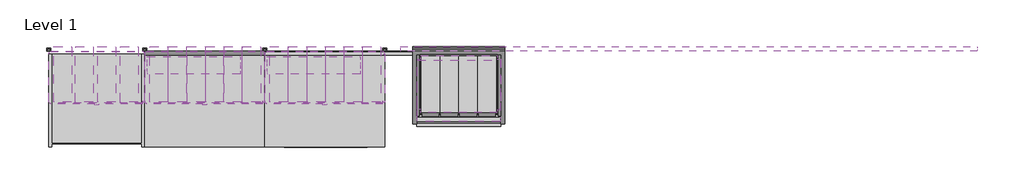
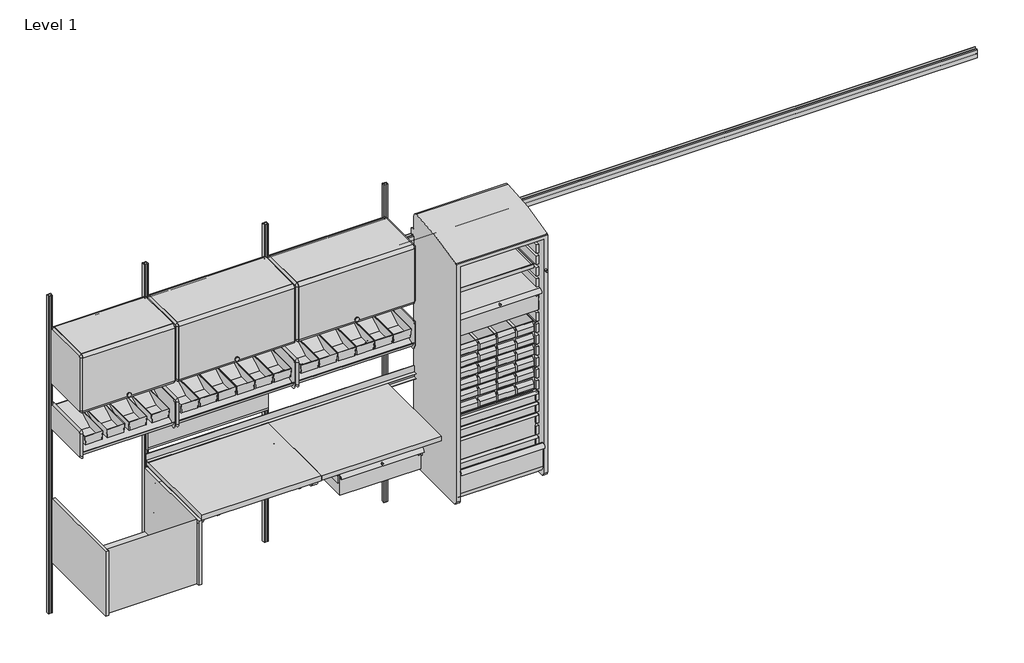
# One storey, incomplete: 47 furniture elements, 2 light fixtures.
"""IFC4 building model written with IfcOpenShell, lengths in millimetres."""

from ifc_helpers import new_model, si_unit, origin, place, context, project, spatial, transform, mapped, element, save
from components import furniture_03e73c74, furniture_d92eedc3, furniture_e3423f84, furniture_2f78b053, furniture_4518f5ca, furniture_6a9bea8c, furniture_c494f6ee, furniture_6299e03b, furniture_37b7cd53, furniture_0eaea0f9, furniture_ac9ddba1, furniture_c85c507a, furniture_f997a199, furniture_bdfcc150, furniture_236c058c, furniture_fc90cfd9, furniture_cfa16b0f, furniture_0d5b5ade, furniture_fea97cc0, furniture_e7193f1e, furniture_ea425779, a_3_cf56a04d, a_3_ebddeea6, b_6_024dd25a, b_6_31b83598, standard_144w_a9847ba4, light_fixture_68823ae9

model = new_model("IFC4")

# Units and contexts
model_context = context("Model", 3, world=origin())
ifc_project = project(units=[si_unit("LENGTHUNIT", "METRE", prefix="MILLI")], contexts=[model_context])

# Site, building, storey
site = spatial("IfcSite", under=ifc_project)
building = spatial("IfcBuilding", under=site)
storey = spatial("IfcBuildingStorey", under=building, Name="Level 1", Elevation=0.0)

# Furniture
placement = place(None, origin())
furniture_shape = furniture_03e73c74(model_context)
element("IfcFurniture", 1, ObjectType="HermanMiller_ActionOffice_A3220_B-StyleStorageDisplay : Display 13\"D x 24\"W", at=placement, inside=storey, context=model_context, shape_type="MappedRepresentation", body=[
    mapped(furniture_shape, transform((428.7420045, -200.025, 0.0), x_axis=(1.0, 0.0, 0.0), y_axis=(0.0, 1.0, 0.0), z_axis=(0.0, 0.0, 1.0))),
])
furniture_2_shape = furniture_d92eedc3(model_context)
element("IfcFurniture", 2, ObjectType="HermanMiller_CoStruc_C2910_WorkSurfaceBacksplash : 3\"H x 72\"W", at=placement, inside=storey, context=model_context, shape_type="MappedRepresentation", body=[
    mapped(furniture_2_shape, transform((1524.0, -19.05, 0.0), x_axis=(1.0, 0.0, 0.0), y_axis=(0.0, 1.0, 0.0), z_axis=(0.0, 0.0, 1.0))),
])
furniture_3_shape = furniture_e3423f84(model_context)
element("IfcFurniture", 3, ObjectType="HermanMiller_ActionOffice_A3220_B-StyleStorageDisplay : Display 13\"D x 30\"W", at=placement, inside=storey, context=model_context, shape_type="MappedRepresentation", body=[
    mapped(furniture_3_shape, transform((1876.5420045, -200.025, 0.0), x_axis=(1.0, 0.0, 0.0), y_axis=(0.0, 1.0, 0.0), z_axis=(0.0, 0.0, 1.0))),
])
element("IfcFurniture", 4, ObjectType="HermanMiller_ActionOffice_A3220_B-StyleStorageDisplay : Display 13\"D x 30\"W", at=placement, inside=storey, context=model_context, shape_type="MappedRepresentation", body=[
    mapped(furniture_3_shape, transform((1114.5420045, -200.025, 0.0), x_axis=(1.0, 0.0, 0.0), y_axis=(0.0, 1.0, 0.0), z_axis=(0.0, 0.0, 1.0))),
])
furniture_4_shape = furniture_2f78b053(model_context)
element("IfcFurniture", 5, ObjectType="HermanMiller_CoStruc_CO371_LockedDrawerWithLockableLid : B - 6\"H x 15\"D x 20\"W Lid Wlock", at=placement, inside=storey, context=model_context, shape_type="MappedRepresentation", body=[
    mapped(furniture_4_shape, transform((1764.3459801, -438.1881, 0.0), x_axis=(1.0, 0.0, 0.0), y_axis=(0.0, 1.0, 0.0), z_axis=(0.0, 0.0, 1.0))),
])
furniture_5_shape = furniture_4518f5ca(model_context)
element("IfcFurniture", 6, ObjectType="HermanMiller_CoStruc_CO371_LockedDrawerWithLockableLid : B - 6\"H x 15\"D x 20\"W Lid Wlock", at=placement, inside=storey, context=model_context, shape_type="MappedRepresentation", body=[
    mapped(furniture_5_shape, transform((2608.4667201, -272.33372, 0.0), x_axis=(1.0, 0.0, 0.0), y_axis=(0.0, 1.0, 0.0), z_axis=(0.0, 0.0, 1.0))),
])
furniture_6_shape = furniture_6a9bea8c(model_context)
element("IfcFurniture", 7, ObjectType="HermanMiller_CoStruc_CO203_CTrayShelf : 14\"D x 20\"W", at=placement, inside=storey, context=model_context, shape_type="MappedRepresentation", body=[
    mapped(furniture_6_shape, transform((2603.92672, -231.02062, 0.0), x_axis=(-1.0, 0.0, 0.0), y_axis=(0.0, -1.0, 0.0), z_axis=(0.0, 0.0, 1.0))),
])
furniture_7_shape = furniture_c494f6ee(model_context)
element("IfcFurniture", 8, ObjectType="HermanMiller_CoStruc_CO565_Cassette Assembly : 6H x 15D x 20W", at=placement, inside=storey, context=model_context, shape_type="MappedRepresentation", body=[
    mapped(furniture_7_shape, transform((2608.68922, -238.95812, 0.0), x_axis=(1.0, 0.0, 0.0), y_axis=(0.0, 1.0, 0.0), z_axis=(0.0, 0.0, 1.0))),
])
furniture_8_shape = furniture_6299e03b(model_context)
element("IfcFurniture", 9, ObjectType="HermanMiller_CoStruc_CO565_Cassette Assembly : 6H x 15D x 20W", at=placement, inside=storey, context=model_context, shape_type="MappedRepresentation", body=[
    mapped(furniture_8_shape, transform((2608.68922, -238.95812, 0.0), x_axis=(1.0, 0.0, 0.0), y_axis=(0.0, 1.0, 0.0), z_axis=(0.0, 0.0, 1.0))),
])
furniture_9_shape = furniture_37b7cd53(model_context)
element("IfcFurniture", 10, ObjectType="HermanMiller_CoStruc_CO565_Cassette Assembly : 6H x 15D x 20W", at=placement, inside=storey, context=model_context, shape_type="MappedRepresentation", body=[
    mapped(furniture_9_shape, transform((2608.68922, -238.95812, 0.0), x_axis=(1.0, 0.0, 0.0), y_axis=(0.0, 1.0, 0.0), z_axis=(0.0, 0.0, 1.0))),
])
furniture_10_shape = furniture_0eaea0f9(model_context)
element("IfcFurniture", 11, ObjectType="HermanMiller_CoStruc_CO203_CTrayShelf : 14\"D x 20\"W", at=placement, inside=storey, context=model_context, shape_type="MappedRepresentation", body=[
    mapped(furniture_10_shape, transform((2603.92672, -231.02062, 0.0), x_axis=(-1.0, 0.0, 0.0), y_axis=(0.0, -1.0, 0.0), z_axis=(0.0, 0.0, 1.0))),
])
furniture_11_shape = furniture_ac9ddba1(model_context)
element("IfcFurniture", 12, ObjectType="HermanMiller_CoStruc_CO561_LockerWithTambourDoor : 66\"H x 20\"D x 22\"W Wlock", at=placement, inside=storey, context=model_context, shape_type="MappedRepresentation", body=[
    mapped(furniture_11_shape, transform((2602.2808, -236.5375, 0.0), x_axis=(1.0, 0.0, 0.0), y_axis=(0.0, 1.0, 0.0), z_axis=(0.0, 0.0, 1.0))),
])
furniture_12_shape = furniture_c85c507a(model_context)
element("IfcFurniture", 13, ObjectType="HermanMiller_CoStruc_CO396_LockableDrawerBearer : 3\"H x 15\"D x 21\"W", at=placement, inside=storey, context=model_context, shape_type="MappedRepresentation", body=[
    mapped(furniture_12_shape, transform((1823.8925877, -349.2182425, 0.0), x_axis=(1.0, 0.0, 0.0), y_axis=(0.0, 1.0, 0.0), z_axis=(0.0, 0.0, 1.0))),
])
furniture_13_shape = furniture_f997a199(model_context)
element("IfcFurniture", 14, ObjectType="HermanMiller_CoStruc_C2140W_WorkSurfaceSupport_ComponentAdaptor : 14\"H x 24\"D x 30\"W", at=placement, inside=storey, context=model_context, shape_type="MappedRepresentation", body=[
    mapped(furniture_13_shape, transform((1752.6, -196.85, 0.0), x_axis=(1.0, 0.0, 0.0), y_axis=(0.0, 1.0, 0.0), z_axis=(0.0, 0.0, 1.0))),
])
furniture_14_shape = furniture_bdfcc150(model_context)
element("IfcFurniture", 15, ObjectType="HermanMiller_CoStruc_C2140H_WorkSurfaceSupport_Heavy Duty : 11\"H x 24\"D x 30\"W", at=placement, inside=storey, context=model_context, shape_type="MappedRepresentation", body=[
    mapped(furniture_14_shape, transform((990.6, -196.85, 0.0), x_axis=(1.0, 0.0, 0.0), y_axis=(0.0, 1.0, 0.0), z_axis=(0.0, 0.0, 1.0))),
])
furniture_15_shape = furniture_236c058c(model_context)
element("IfcFurniture", 16, ObjectType="HermanMiller_CoStruc_C2141_Heavy-DutyWorkSurface : 24\"D x 30\"W Lam", at=placement, inside=storey, context=model_context, shape_type="MappedRepresentation", body=[
    mapped(furniture_15_shape, transform((1676.4, -196.85, 0.0), x_axis=(1.0, 0.0, 0.0), y_axis=(0.0, 1.0, 0.0), z_axis=(0.0, 0.0, 1.0))),
])
element("IfcFurniture", 17, ObjectType="HermanMiller_CoStruc_C2141_Heavy-DutyWorkSurface : 24\"D x 30\"W Lam", at=placement, inside=storey, context=model_context, shape_type="MappedRepresentation", body=[
    mapped(furniture_15_shape, transform((914.4, -196.85, 0.0), x_axis=(1.0, 0.0, 0.0), y_axis=(0.0, 1.0, 0.0), z_axis=(0.0, 0.0, 1.0))),
])
furniture_16_shape = furniture_fc90cfd9(model_context)
element("IfcFurniture", 18, ObjectType="HermanMiller_CoStruc_C2512_SinkModule : 18\"H x 24\"D x 24\"W", at=placement, inside=storey, context=model_context, shape_type="MappedRepresentation", body=[
    mapped(furniture_16_shape, transform((304.8, -206.375, 0.0), x_axis=(1.0, 0.0, 0.0), y_axis=(0.0, 1.0, 0.0), z_axis=(0.0, 0.0, 1.0))),
])
furniture_17_shape = furniture_cfa16b0f(model_context)
element("IfcFurniture", 19, ObjectType="HermanMiller_ActionOffice_A3410_B-StyleTackboard : 12\"H x 30\"W", at=placement, inside=storey, context=model_context, shape_type="MappedRepresentation", body=[
    mapped(furniture_17_shape, transform((990.6, -31.75, 0.0), x_axis=(1.0, 0.0, 0.0), y_axis=(0.0, 1.0, 0.0), z_axis=(0.0, 0.0, 1.0))),
])
furniture_18_shape = furniture_0d5b5ade(model_context)
element("IfcFurniture", 20, ObjectType="HermanMiller_ActionOffice_A3352_B-StyleFlipperDoorUnit : 15 1/2\"H x 13\"D x 30\"W", at=placement, inside=storey, context=model_context, shape_type="MappedRepresentation", body=[
    mapped(furniture_18_shape, transform((1752.6, -200.025, 0.0), x_axis=(1.0, 0.0, 0.0), y_axis=(0.0, 1.0, 0.0), z_axis=(0.0, 0.0, 1.0))),
])
element("IfcFurniture", 21, ObjectType="HermanMiller_ActionOffice_A3352_B-StyleFlipperDoorUnit : 15 1/2\"H x 13\"D x 30\"W", at=placement, inside=storey, context=model_context, shape_type="MappedRepresentation", body=[
    mapped(furniture_18_shape, transform((990.6, -200.025, 0.0), x_axis=(1.0, 0.0, 0.0), y_axis=(0.0, 1.0, 0.0), z_axis=(0.0, 0.0, 1.0))),
])
furniture_19_shape = furniture_fea97cc0(model_context)
element("IfcFurniture", 22, ObjectType="HermanMiller_ActionOffice_A3352_B-StyleFlipperDoorUnit : 15 1/2\"H x 13\"D x 24\"W", at=placement, inside=storey, context=model_context, shape_type="MappedRepresentation", body=[
    mapped(furniture_19_shape, transform((304.8, -200.025, 0.0), x_axis=(1.0, 0.0, 0.0), y_axis=(0.0, 1.0, 0.0), z_axis=(0.0, 0.0, 1.0))),
])
furniture_20_shape = furniture_e7193f1e(model_context)
element("IfcFurniture", 23, ObjectType="HermanMiller_CoStruc_CO231_Subcontainer : 2 1/4\"H x 13 7/8\"D x 4 1/2\"W", at=placement, inside=storey, context=model_context, shape_type="MappedRepresentation", body=[
    mapped(furniture_20_shape, transform((1169.91638, -169.1513, 0.0), x_axis=(-1.0, 0.0, 0.0), y_axis=(0.0, -1.0, 0.0), z_axis=(0.0, 0.0, 1.0))),
])
element("IfcFurniture", 24, ObjectType="HermanMiller_CoStruc_CO231_Subcontainer : 2 1/4\"H x 13 7/8\"D x 4 1/2\"W", at=placement, inside=storey, context=model_context, shape_type="MappedRepresentation", body=[
    mapped(furniture_20_shape, transform((1287.55902, -169.1513, 0.0), x_axis=(-1.0, 0.0, 0.0), y_axis=(0.0, -1.0, 0.0), z_axis=(0.0, 0.0, 1.0))),
])
element("IfcFurniture", 25, ObjectType="HermanMiller_CoStruc_CO231_Subcontainer : 2 1/4\"H x 13 7/8\"D x 4 1/2\"W", at=placement, inside=storey, context=model_context, shape_type="MappedRepresentation", body=[
    mapped(furniture_20_shape, transform((699.57696, -169.1513, 0.0), x_axis=(-1.0, 0.0, 0.0), y_axis=(0.0, -1.0, 0.0), z_axis=(0.0, 0.0, 1.0))),
])
element("IfcFurniture", 26, ObjectType="HermanMiller_CoStruc_CO231_Subcontainer : 2 1/4\"H x 13 7/8\"D x 4 1/2\"W", at=placement, inside=storey, context=model_context, shape_type="MappedRepresentation", body=[
    mapped(furniture_20_shape, transform((817.38978, -169.1513, 0.0), x_axis=(-1.0, 0.0, 0.0), y_axis=(0.0, -1.0, 0.0), z_axis=(0.0, 0.0, 1.0))),
])
element("IfcFurniture", 27, ObjectType="HermanMiller_CoStruc_CO231_Subcontainer : 2 1/4\"H x 13 7/8\"D x 4 1/2\"W", at=placement, inside=storey, context=model_context, shape_type="MappedRepresentation", body=[
    mapped(furniture_20_shape, transform((936.37608, -169.1513, 0.0), x_axis=(-1.0, 0.0, 0.0), y_axis=(0.0, -1.0, 0.0), z_axis=(0.0, 0.0, 1.0))),
])
element("IfcFurniture", 28, ObjectType="HermanMiller_CoStruc_CO231_Subcontainer : 2 1/4\"H x 13 7/8\"D x 4 1/2\"W", at=placement, inside=storey, context=model_context, shape_type="MappedRepresentation", body=[
    mapped(furniture_20_shape, transform((1054.01872, -169.1513, 0.0), x_axis=(-1.0, 0.0, 0.0), y_axis=(0.0, -1.0, 0.0), z_axis=(0.0, 0.0, 1.0))),
])
element("IfcFurniture", 29, ObjectType="HermanMiller_CoStruc_CO231_Subcontainer : 2 1/4\"H x 13 7/8\"D x 4 1/2\"W", at=placement, inside=storey, context=model_context, shape_type="MappedRepresentation", body=[
    mapped(furniture_20_shape, transform((1931.91638, -169.1513, 0.0), x_axis=(-1.0, 0.0, 0.0), y_axis=(0.0, -1.0, 0.0), z_axis=(0.0, 0.0, 1.0))),
])
element("IfcFurniture", 30, ObjectType="HermanMiller_CoStruc_CO231_Subcontainer : 2 1/4\"H x 13 7/8\"D x 4 1/2\"W", at=placement, inside=storey, context=model_context, shape_type="MappedRepresentation", body=[
    mapped(furniture_20_shape, transform((2049.55902, -169.1513, 0.0), x_axis=(-1.0, 0.0, 0.0), y_axis=(0.0, -1.0, 0.0), z_axis=(0.0, 0.0, 1.0))),
])
element("IfcFurniture", 31, ObjectType="HermanMiller_CoStruc_CO231_Subcontainer : 2 1/4\"H x 13 7/8\"D x 4 1/2\"W", at=placement, inside=storey, context=model_context, shape_type="MappedRepresentation", body=[
    mapped(furniture_20_shape, transform((89.97696, -169.1513, 0.0), x_axis=(-1.0, 0.0, 0.0), y_axis=(0.0, -1.0, 0.0), z_axis=(0.0, 0.0, 1.0))),
])
element("IfcFurniture", 32, ObjectType="HermanMiller_CoStruc_CO231_Subcontainer : 2 1/4\"H x 13 7/8\"D x 4 1/2\"W", at=placement, inside=storey, context=model_context, shape_type="MappedRepresentation", body=[
    mapped(furniture_20_shape, transform((227.965, -169.1513, 0.0), x_axis=(-1.0, 0.0, 0.0), y_axis=(0.0, -1.0, 0.0), z_axis=(0.0, 0.0, 1.0))),
])
element("IfcFurniture", 33, ObjectType="HermanMiller_CoStruc_CO231_Subcontainer : 2 1/4\"H x 13 7/8\"D x 4 1/2\"W", at=placement, inside=storey, context=model_context, shape_type="MappedRepresentation", body=[
    mapped(furniture_20_shape, transform((369.02898, -169.1513, 0.0), x_axis=(-1.0, 0.0, 0.0), y_axis=(0.0, -1.0, 0.0), z_axis=(0.0, 0.0, 1.0))),
])
element("IfcFurniture", 34, ObjectType="HermanMiller_CoStruc_CO231_Subcontainer : 2 1/4\"H x 13 7/8\"D x 4 1/2\"W", at=placement, inside=storey, context=model_context, shape_type="MappedRepresentation", body=[
    mapped(furniture_20_shape, transform((512.22402, -169.1513, 0.0), x_axis=(-1.0, 0.0, 0.0), y_axis=(0.0, -1.0, 0.0), z_axis=(0.0, 0.0, 1.0))),
])
element("IfcFurniture", 35, ObjectType="HermanMiller_CoStruc_CO231_Subcontainer : 2 1/4\"H x 13 7/8\"D x 4 1/2\"W", at=placement, inside=storey, context=model_context, shape_type="MappedRepresentation", body=[
    mapped(furniture_20_shape, transform((1461.57696, -169.1513, 0.0), x_axis=(-1.0, 0.0, 0.0), y_axis=(0.0, -1.0, 0.0), z_axis=(0.0, 0.0, 1.0))),
])
element("IfcFurniture", 36, ObjectType="HermanMiller_CoStruc_CO231_Subcontainer : 2 1/4\"H x 13 7/8\"D x 4 1/2\"W", at=placement, inside=storey, context=model_context, shape_type="MappedRepresentation", body=[
    mapped(furniture_20_shape, transform((1579.38978, -169.1513, 0.0), x_axis=(-1.0, 0.0, 0.0), y_axis=(0.0, -1.0, 0.0), z_axis=(0.0, 0.0, 1.0))),
])
element("IfcFurniture", 37, ObjectType="HermanMiller_CoStruc_CO231_Subcontainer : 2 1/4\"H x 13 7/8\"D x 4 1/2\"W", at=placement, inside=storey, context=model_context, shape_type="MappedRepresentation", body=[
    mapped(furniture_20_shape, transform((1698.37608, -169.1513, 0.0), x_axis=(-1.0, 0.0, 0.0), y_axis=(0.0, -1.0, 0.0), z_axis=(0.0, 0.0, 1.0))),
])
element("IfcFurniture", 38, ObjectType="HermanMiller_CoStruc_CO231_Subcontainer : 2 1/4\"H x 13 7/8\"D x 4 1/2\"W", at=placement, inside=storey, context=model_context, shape_type="MappedRepresentation", body=[
    mapped(furniture_20_shape, transform((1816.01872, -169.1513, 0.0), x_axis=(-1.0, 0.0, 0.0), y_axis=(0.0, -1.0, 0.0), z_axis=(0.0, 0.0, 1.0))),
])
furniture_21_shape = furniture_ea425779(model_context)
element("IfcFurniture", 39, ObjectType="HermanMiller_ActionOffice_AO213_WallStrip : 84\"H", at=placement, inside=storey, context=model_context, shape_type="MappedRepresentation", body=[
    mapped(furniture_21_shape, transform((2133.6, 0.0, 0.0), x_axis=(1.0, 0.0, 0.0), y_axis=(0.0, 1.0, 0.0), z_axis=(0.0, 0.0, 1.0))),
])
element("IfcFurniture", 40, ObjectType="HermanMiller_ActionOffice_AO213_WallStrip : 84\"H", at=placement, inside=storey, context=model_context, shape_type="MappedRepresentation", body=[
    mapped(furniture_21_shape, transform((1371.6, 0.0, 0.0), x_axis=(1.0, 0.0, 0.0), y_axis=(0.0, 1.0, 0.0), z_axis=(0.0, 0.0, 1.0))),
])
element("IfcFurniture", 41, ObjectType="HermanMiller_ActionOffice_AO213_WallStrip : 84\"H", at=placement, inside=storey, context=model_context, shape_type="MappedRepresentation", body=[
    mapped(furniture_21_shape, transform((609.6, 0.0, 0.0), x_axis=(1.0, 0.0, 0.0), y_axis=(0.0, 1.0, 0.0), z_axis=(0.0, 0.0, 1.0))),
])
element("IfcFurniture", 42, ObjectType="HermanMiller_ActionOffice_AO213_WallStrip : 84\"H", at=placement, inside=storey, context=model_context, shape_type="MappedRepresentation", body=[
    mapped(furniture_21_shape, transform((0.0, 0.0, 0.0), x_axis=(1.0, 0.0, 0.0), y_axis=(0.0, 1.0, 0.0), z_axis=(0.0, 0.0, 1.0))),
])
a_3_shape = a_3_cf56a04d(model_context)
element("IfcFurniture", 43, ObjectType="HermanMiller_CoStruc_CO207_Drawer : A - 3", at=placement, inside=storey, context=model_context, shape_type="MappedRepresentation", body=[
    mapped(a_3_shape, transform((2595.9218717, -242.15852, 0.0), x_axis=(1.0, 0.0, 0.0), y_axis=(0.0, 1.0, 0.0), z_axis=(0.0, 0.0, 1.0))),
])
a_3_2_shape = a_3_ebddeea6(model_context)
element("IfcFurniture", 44, ObjectType="HermanMiller_CoStruc_CO207_Drawer : A - 3", at=placement, inside=storey, context=model_context, shape_type="MappedRepresentation", body=[
    mapped(a_3_2_shape, transform((2595.9218717, -242.15852, 0.0), x_axis=(1.0, 0.0, 0.0), y_axis=(0.0, 1.0, 0.0), z_axis=(0.0, 0.0, 1.0))),
])
b_6_shape = b_6_024dd25a(model_context)
element("IfcFurniture", 45, ObjectType="HermanMiller_CoStruc_CO207_Drawer : B - 6", at=placement, inside=storey, context=model_context, shape_type="MappedRepresentation", body=[
    mapped(b_6_shape, transform((2595.9218717, -240.57102, 0.0), x_axis=(1.0, 0.0, 0.0), y_axis=(0.0, 1.0, 0.0), z_axis=(0.0, 0.0, 1.0))),
])
b_6_2_shape = b_6_31b83598(model_context)
element("IfcFurniture", 46, ObjectType="HermanMiller_CoStruc_CO207_Drawer : B - 6", at=placement, inside=storey, context=model_context, shape_type="MappedRepresentation", body=[
    mapped(b_6_2_shape, transform((2595.9218717, -240.57102, 0.0), x_axis=(1.0, 0.0, 0.0), y_axis=(0.0, 1.0, 0.0), z_axis=(0.0, 0.0, 1.0))),
])
standard_144w_shape = standard_144w_a9847ba4(model_context)
element("IfcFurniture", 47, ObjectType="HermanMiller_CoStruc_CO282_StandardRail : Standard 144W", at=placement, inside=storey, context=model_context, shape_type="MappedRepresentation", body=[
    mapped(standard_144w_shape, transform((4131.6888525, 9.525, 0.0), x_axis=(1.0, 0.0, 0.0), y_axis=(0.0, 1.0, 0.0), z_axis=(0.0, 0.0, 1.0))),
])

# Light fixtures
light_fixture_shape = light_fixture_68823ae9(model_context)
element("IfcLightFixture", 48, ObjectType="HermanMiller_SupplementalProducts_G6136_UtilityTaskLight : AO Etho Canvas 30W", at=placement, inside=storey, context=model_context, shape_type="MappedRepresentation", body=[
    mapped(light_fixture_shape, transform((1683.131, -111.125, 0.0), x_axis=(1.0, 0.0, 0.0), y_axis=(0.0, 1.0, 0.0), z_axis=(0.0, 0.0, 1.0))),
])
element("IfcLightFixture", 49, ObjectType="HermanMiller_SupplementalProducts_G6136_UtilityTaskLight : AO Etho Canvas 30W", at=placement, inside=storey, context=model_context, shape_type="MappedRepresentation", body=[
    mapped(light_fixture_shape, transform((921.131, -111.125, 0.0), x_axis=(1.0, 0.0, 0.0), y_axis=(0.0, 1.0, 0.0), z_axis=(0.0, 0.0, 1.0))),
])

save(model, "model.ifc")
